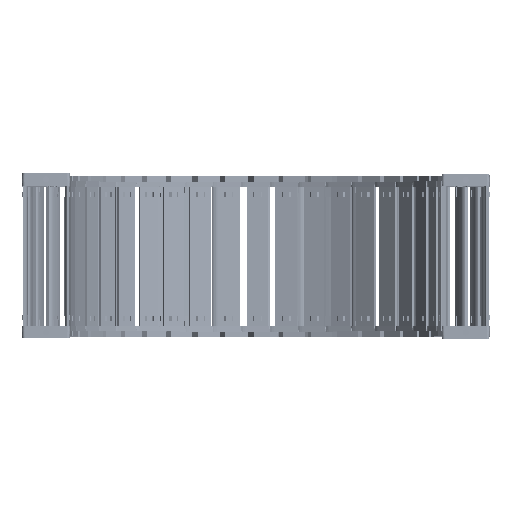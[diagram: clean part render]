
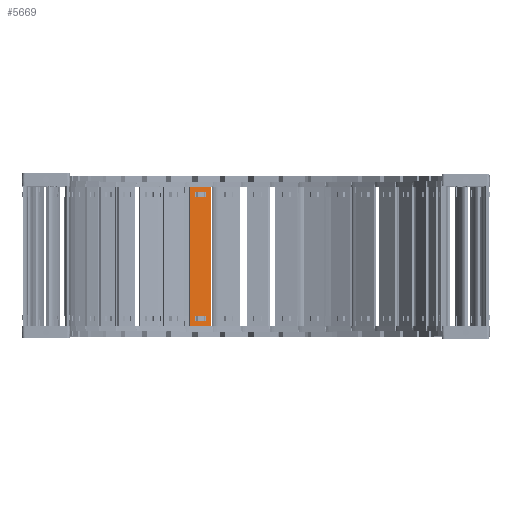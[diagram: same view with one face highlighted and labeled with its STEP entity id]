
A CAD part, top view. The second image highlights one B-rep face of the part: STEP entity #5669.
In plain terms, the highlighted planar face has unit normal (0.279, 0, 0.96) as drawn and (0, 1, 0) by its records, which use the part's own axes.
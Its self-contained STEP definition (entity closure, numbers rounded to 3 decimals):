
#5089=DIRECTION('',(0.,0.,1.));
#5090=VECTOR('',#5089,15.8);
#5091=CARTESIAN_POINT('',(85.74,1.5,-7.9));
#5092=LINE('',#5091,#5090);
#5093=DIRECTION('',(-1.,0.,0.));
#5094=VECTOR('',#5093,100.5);
#5095=CARTESIAN_POINT('',(85.74,1.5,7.9));
#5096=LINE('',#5095,#5094);
#5097=DIRECTION('',(0.,0.,-1.));
#5098=VECTOR('',#5097,15.8);
#5099=CARTESIAN_POINT('',(-14.76,1.5,7.9));
#5100=LINE('',#5099,#5098);
#5101=DIRECTION('',(1.,0.,0.));
#5102=VECTOR('',#5101,3.648);
#5103=CARTESIAN_POINT('',(78.122,1.5,4.075));
#5104=LINE('',#5103,#5102);
#5105=DIRECTION('',(0.,0.,-1.));
#5106=VECTOR('',#5105,8.15);
#5107=CARTESIAN_POINT('',(81.77,1.5,4.075));
#5108=LINE('',#5107,#5106);
#5109=DIRECTION('',(-1.,0.,0.));
#5110=VECTOR('',#5109,3.648);
#5111=CARTESIAN_POINT('',(81.77,1.5,-4.075));
#5112=LINE('',#5111,#5110);
#5113=DIRECTION('',(0.,0.,-1.));
#5114=VECTOR('',#5113,8.15);
#5115=CARTESIAN_POINT('',(-7.142,1.5,4.075));
#5116=LINE('',#5115,#5114);
#5117=DIRECTION('',(-1.,0.,0.));
#5118=VECTOR('',#5117,3.648);
#5119=CARTESIAN_POINT('',(-7.142,1.5,-4.075));
#5120=LINE('',#5119,#5118);
#5121=DIRECTION('',(0.,0.,1.));
#5122=VECTOR('',#5121,8.15);
#5123=CARTESIAN_POINT('',(-10.79,1.5,-4.075));
#5124=LINE('',#5123,#5122);
#5125=DIRECTION('',(1.,0.,0.));
#5126=VECTOR('',#5125,3.648);
#5127=CARTESIAN_POINT('',(-10.79,1.5,4.075));
#5128=LINE('',#5127,#5126);
#5133=DIRECTION('',(-1.,0.,0.));
#5134=VECTOR('',#5133,100.5);
#5135=CARTESIAN_POINT('',(85.74,1.5,-7.9));
#5136=LINE('',#5135,#5134);
#5254=DIRECTION('',(0.,0.,-1.));
#5255=VECTOR('',#5254,8.15);
#5256=CARTESIAN_POINT('',(78.122,1.5,4.075));
#5257=LINE('',#5256,#5255);
#5439=CARTESIAN_POINT('',(81.77,1.5,4.075));
#5440=VERTEX_POINT('',#5439);
#5441=CARTESIAN_POINT('',(78.122,1.5,4.075));
#5442=VERTEX_POINT('',#5441);
#5483=CARTESIAN_POINT('',(78.122,1.5,-4.075));
#5484=VERTEX_POINT('',#5483);
#5485=CARTESIAN_POINT('',(81.77,1.5,-4.075));
#5486=VERTEX_POINT('',#5485);
#5487=CARTESIAN_POINT('',(85.74,1.5,7.9));
#5489=VERTEX_POINT('',#5487);
#5491=CARTESIAN_POINT('',(85.74,1.5,-7.9));
#5492=VERTEX_POINT('',#5491);
#5515=CARTESIAN_POINT('',(-7.142,1.5,4.075));
#5516=CARTESIAN_POINT('',(-7.142,1.5,-4.075));
#5517=VERTEX_POINT('',#5515);
#5518=VERTEX_POINT('',#5516);
#5519=CARTESIAN_POINT('',(-10.79,1.5,-4.075));
#5520=VERTEX_POINT('',#5519);
#5521=CARTESIAN_POINT('',(-10.79,1.5,4.075));
#5522=VERTEX_POINT('',#5521);
#5523=CARTESIAN_POINT('',(-14.76,1.5,7.9));
#5524=VERTEX_POINT('',#5523);
#5527=CARTESIAN_POINT('',(-14.76,1.5,-7.9));
#5528=VERTEX_POINT('',#5527);
#5638=CARTESIAN_POINT('',(117.48,1.5,10.061));
#5639=DIRECTION('',(0.,-1.,0.));
#5640=DIRECTION('',(0.,0.,-1.));
#5641=AXIS2_PLACEMENT_3D('',#5638,#5639,#5640);
#5642=PLANE('',#5641);
#5643=ORIENTED_EDGE('',*,*,#5577,.T.);
#5644=ORIENTED_EDGE('',*,*,#5603,.T.);
#5645=ORIENTED_EDGE('',*,*,#5616,.T.);
#5647=ORIENTED_EDGE('',*,*,#5646,.F.);
#5648=EDGE_LOOP('',(#5643,#5644,#5645,#5647));
#5649=FACE_OUTER_BOUND('',#5648,.F.);
#5651=ORIENTED_EDGE('',*,*,#5650,.F.);
#5652=ORIENTED_EDGE('',*,*,#5540,.T.);
#5654=ORIENTED_EDGE('',*,*,#5653,.T.);
#5656=ORIENTED_EDGE('',*,*,#5655,.T.);
#5657=EDGE_LOOP('',(#5651,#5652,#5654,#5656));
#5658=FACE_BOUND('',#5657,.F.);
#5660=ORIENTED_EDGE('',*,*,#5659,.T.);
#5662=ORIENTED_EDGE('',*,*,#5661,.T.);
#5664=ORIENTED_EDGE('',*,*,#5663,.T.);
#5666=ORIENTED_EDGE('',*,*,#5665,.T.);
#5667=EDGE_LOOP('',(#5660,#5662,#5664,#5666));
#5668=FACE_BOUND('',#5667,.F.);
#5669=ADVANCED_FACE('',(#5649,#5658,#5668),#5642,.F.);
#5540=EDGE_CURVE('',#5442,#5440,#5104,.T.);
#5577=EDGE_CURVE('',#5492,#5489,#5092,.T.);
#5603=EDGE_CURVE('',#5489,#5524,#5096,.T.);
#5616=EDGE_CURVE('',#5524,#5528,#5100,.T.);
#5646=EDGE_CURVE('',#5492,#5528,#5136,.T.);
#5650=EDGE_CURVE('',#5442,#5484,#5257,.T.);
#5653=EDGE_CURVE('',#5440,#5486,#5108,.T.);
#5655=EDGE_CURVE('',#5486,#5484,#5112,.T.);
#5659=EDGE_CURVE('',#5517,#5518,#5116,.T.);
#5661=EDGE_CURVE('',#5518,#5520,#5120,.T.);
#5663=EDGE_CURVE('',#5520,#5522,#5124,.T.);
#5665=EDGE_CURVE('',#5522,#5517,#5128,.T.);
